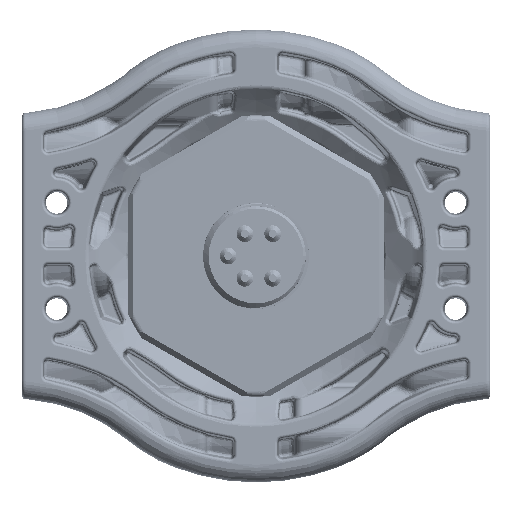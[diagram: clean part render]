
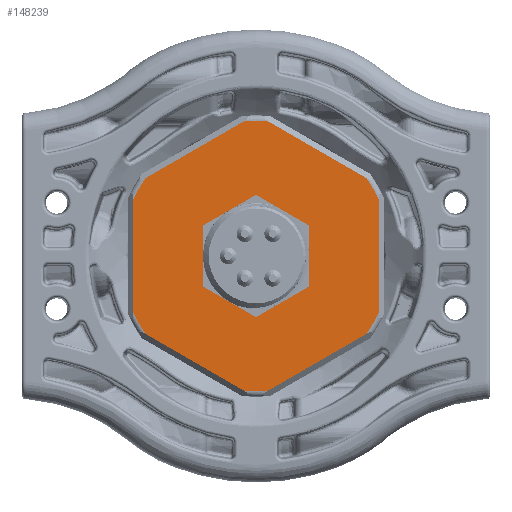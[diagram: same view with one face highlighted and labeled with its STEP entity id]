
A CAD part, left-side view. The second image highlights one B-rep face of the part: STEP entity #148239.
In plain terms, the highlighted planar face has unit normal (-1, 0, 0).
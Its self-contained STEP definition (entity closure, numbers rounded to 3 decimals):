
#1518 = VERTEX_POINT ( 'NONE', #77945 ) ;
#2818 = DIRECTION ( 'NONE',  ( 1., 0., 0. ) ) ;
#3998 = CARTESIAN_POINT ( 'NONE',  ( -28.5, 19.809, 13.989 ) ) ;
#4589 = VECTOR ( 'NONE', #41191, 1000. ) ;
#5277 = ORIENTED_EDGE ( 'NONE', *, *, #127420, .F. ) ;
#5743 = VERTEX_POINT ( 'NONE', #137483 ) ;
#7773 = DIRECTION ( 'NONE',  ( 0., -0.866, -0.5 ) ) ;
#9528 = CIRCLE ( 'NONE', #18572, 24.25 ) ;
#10457 = CARTESIAN_POINT ( 'NONE',  ( -28.5, 0., 0. ) ) ;
#14939 = CARTESIAN_POINT ( 'NONE',  ( -28.5, 19.809, -13.989 ) ) ;
#15574 = DIRECTION ( 'NONE',  ( 1., 0., 0. ) ) ;
#17338 = CARTESIAN_POINT ( 'NONE',  ( -28.5, 24.25, 0. ) ) ;
#17983 = DIRECTION ( 'NONE',  ( 0., 0., -1. ) ) ;
#18165 = CIRCLE ( 'NONE', #175282, 24.25 ) ;
#18572 = AXIS2_PLACEMENT_3D ( 'NONE', #62190, #120902, #134183 ) ;
#19331 = EDGE_CURVE ( 'NONE', #171170, #175261, #144243, .T. ) ;
#20846 = EDGE_CURVE ( 'NONE', #96723, #151943, #59756, .T. ) ;
#22269 = ORIENTED_EDGE ( 'NONE', *, *, #71309, .F. ) ;
#22919 = LINE ( 'NONE', #37076, #175452 ) ;
#24061 = CIRCLE ( 'NONE', #141951, 24.25 ) ;
#24545 = ORIENTED_EDGE ( 'NONE', *, *, #125979, .F. ) ;
#24694 = ORIENTED_EDGE ( 'NONE', *, *, #19331, .F. ) ;
#26303 = DIRECTION ( 'NONE',  ( 0., 0., -1. ) ) ;
#26962 = CARTESIAN_POINT ( 'NONE',  ( -28.5, -19.809, 13.989 ) ) ;
#27557 = DIRECTION ( 'NONE',  ( 0., 0., -1. ) ) ;
#28723 = FACE_OUTER_BOUND ( 'NONE', #121895, .T. ) ;
#29585 = CARTESIAN_POINT ( 'NONE',  ( -28.5, -22.019, -10.161 ) ) ;
#29883 = VERTEX_POINT ( 'NONE', #182624 ) ;
#31294 = CARTESIAN_POINT ( 'NONE',  ( -28.5, 0., 0. ) ) ;
#36156 = CARTESIAN_POINT ( 'NONE',  ( -28.5, 29.197, -8.568 ) ) ;
#36586 = DIRECTION ( 'NONE',  ( 0., 0., 1. ) ) ;
#37076 = CARTESIAN_POINT ( 'NONE',  ( -28.5, 7.178, -29.569 ) ) ;
#37494 = EDGE_CURVE ( 'NONE', #96723, #145484, #50319, .T. ) ;
#37577 = ORIENTED_EDGE ( 'NONE', *, *, #43784, .F. ) ;
#41191 = DIRECTION ( 'NONE',  ( 0., 0.866, -0.5 ) ) ;
#42596 = CIRCLE ( 'NONE', #169473, 24.25 ) ;
#43718 = VECTOR ( 'NONE', #96026, 1000. ) ;
#43784 = EDGE_CURVE ( 'NONE', #136558, #1518, #18165, .T. ) ;
#45125 = CARTESIAN_POINT ( 'NONE',  ( -28.5, 0., 0. ) ) ;
#46742 = CARTESIAN_POINT ( 'NONE',  ( -28.5, 0., 0. ) ) ;
#47050 = EDGE_CURVE ( 'NONE', #141834, #175261, #136940, .T. ) ;
#50319 = LINE ( 'NONE', #36156, #120554 ) ;
#52309 = ORIENTED_EDGE ( 'NONE', *, *, #20846, .F. ) ;
#56463 = VERTEX_POINT ( 'NONE', #70944 ) ;
#57841 = EDGE_CURVE ( 'NONE', #136558, #92036, #127308, .T. ) ;
#59756 = CIRCLE ( 'NONE', #117215, 24.25 ) ;
#60973 = ORIENTED_EDGE ( 'NONE', *, *, #47050, .T. ) ;
#62190 = CARTESIAN_POINT ( 'NONE',  ( -28.5, 0., 0. ) ) ;
#62613 = AXIS2_PLACEMENT_3D ( 'NONE', #147592, #2818, #17983 ) ;
#64535 = CARTESIAN_POINT ( 'NONE',  ( -28.5, 2.21, 24.149 ) ) ;
#65392 = DIRECTION ( 'NONE',  ( 0., -0.866, 0.5 ) ) ;
#67847 = DIRECTION ( 'NONE',  ( 1., 0., 0. ) ) ;
#70944 = CARTESIAN_POINT ( 'NONE',  ( -28.5, 0., -24.25 ) ) ;
#71309 = EDGE_CURVE ( 'NONE', #141834, #5743, #9528, .T. ) ;
#73250 = CARTESIAN_POINT ( 'NONE',  ( -28.5, -22.019, 10.161 ) ) ;
#75183 = EDGE_CURVE ( 'NONE', #171170, #1518, #129533, .T. ) ;
#77945 = CARTESIAN_POINT ( 'NONE',  ( -28.5, -2.21, 24.149 ) ) ;
#80469 = DIRECTION ( 'NONE',  ( 1., 0., 0. ) ) ;
#81397 = DIRECTION ( 'NONE',  ( 0., 0., -1. ) ) ;
#82098 = CARTESIAN_POINT ( 'NONE',  ( -28.5, 0., 0. ) ) ;
#82143 = CARTESIAN_POINT ( 'NONE',  ( -28.5, 22.019, 10.161 ) ) ;
#86466 = ORIENTED_EDGE ( 'NONE', *, *, #130393, .T. ) ;
#86738 = DIRECTION ( 'NONE',  ( 1., 0., 0. ) ) ;
#87822 = CARTESIAN_POINT ( 'NONE',  ( -28.5, 7.178, 29.569 ) ) ;
#90779 = AXIS2_PLACEMENT_3D ( 'NONE', #31294, #157188, #27557 ) ;
#92036 = VERTEX_POINT ( 'NONE', #3998 ) ;
#96026 = DIRECTION ( 'NONE',  ( 0., 0., -1. ) ) ;
#96723 = VERTEX_POINT ( 'NONE', #14939 ) ;
#97885 = LINE ( 'NONE', #183211, #43718 ) ;
#102820 = DIRECTION ( 'NONE',  ( 0., 0., -1. ) ) ;
#103478 = DIRECTION ( 'NONE',  ( 0., 0., -1. ) ) ;
#105189 = EDGE_CURVE ( 'NONE', #168978, #151943, #97885, .T. ) ;
#113084 = CARTESIAN_POINT ( 'NONE',  ( -28.5, 29.197, 8.568 ) ) ;
#117215 = AXIS2_PLACEMENT_3D ( 'NONE', #46742, #15574, #103478 ) ;
#118790 = ORIENTED_EDGE ( 'NONE', *, *, #105189, .T. ) ;
#120554 = VECTOR ( 'NONE', #7773, 1000. ) ;
#120902 = DIRECTION ( 'NONE',  ( 1., 0., 0. ) ) ;
#121895 = EDGE_LOOP ( 'NONE', ( #24694, #146249, #37577, #179175, #24545, #118790, #52309, #184608, #5277, #134515, #86466, #22269, #60973 ) ) ;
#125979 = EDGE_CURVE ( 'NONE', #168978, #92036, #166365, .T. ) ;
#127308 = LINE ( 'NONE', #113084, #4589 ) ;
#127420 = EDGE_CURVE ( 'NONE', #56463, #145484, #42596, .T. ) ;
#128894 = AXIS2_PLACEMENT_3D ( 'NONE', #17338, #160225, #171630 ) ;
#129533 = LINE ( 'NONE', #87822, #179215 ) ;
#129947 = PLANE ( 'NONE',  #128894 ) ;
#130393 = EDGE_CURVE ( 'NONE', #29883, #5743, #22919, .T. ) ;
#131403 = DIRECTION ( 'NONE',  ( 0., 0.866, 0.5 ) ) ;
#134183 = DIRECTION ( 'NONE',  ( 0., 0., -1. ) ) ;
#134515 = ORIENTED_EDGE ( 'NONE', *, *, #174360, .F. ) ;
#136558 = VERTEX_POINT ( 'NONE', #64535 ) ;
#136940 = LINE ( 'NONE', #166256, #184897 ) ;
#137483 = CARTESIAN_POINT ( 'NONE',  ( -28.5, -19.809, -13.989 ) ) ;
#141834 = VERTEX_POINT ( 'NONE', #29585 ) ;
#141951 = AXIS2_PLACEMENT_3D ( 'NONE', #82098, #67847, #26303 ) ;
#144243 = CIRCLE ( 'NONE', #62613, 24.25 ) ;
#145484 = VERTEX_POINT ( 'NONE', #179298 ) ;
#146249 = ORIENTED_EDGE ( 'NONE', *, *, #75183, .T. ) ;
#147508 = CARTESIAN_POINT ( 'NONE',  ( -28.5, 22.019, -10.161 ) ) ;
#147592 = CARTESIAN_POINT ( 'NONE',  ( -28.5, 0., 0. ) ) ;
#148239 = ADVANCED_FACE ( 'NONE', ( #28723 ), #129947, .T. ) ;
#151943 = VERTEX_POINT ( 'NONE', #147508 ) ;
#157188 = DIRECTION ( 'NONE',  ( 1., 0., 0. ) ) ;
#160225 = DIRECTION ( 'NONE',  ( -1., 0., 0. ) ) ;
#166256 = CARTESIAN_POINT ( 'NONE',  ( -28.5, -22.019, 0. ) ) ;
#166365 = CIRCLE ( 'NONE', #90779, 24.25 ) ;
#168978 = VERTEX_POINT ( 'NONE', #82143 ) ;
#169473 = AXIS2_PLACEMENT_3D ( 'NONE', #10457, #80469, #81397 ) ;
#171170 = VERTEX_POINT ( 'NONE', #26962 ) ;
#171630 = DIRECTION ( 'NONE',  ( 0., 0., 1. ) ) ;
#174360 = EDGE_CURVE ( 'NONE', #29883, #56463, #24061, .T. ) ;
#175261 = VERTEX_POINT ( 'NONE', #73250 ) ;
#175282 = AXIS2_PLACEMENT_3D ( 'NONE', #45125, #86738, #102820 ) ;
#175452 = VECTOR ( 'NONE', #65392, 1000. ) ;
#179175 = ORIENTED_EDGE ( 'NONE', *, *, #57841, .T. ) ;
#179215 = VECTOR ( 'NONE', #131403, 1000. ) ;
#179298 = CARTESIAN_POINT ( 'NONE',  ( -28.5, 2.21, -24.149 ) ) ;
#182624 = CARTESIAN_POINT ( 'NONE',  ( -28.5, -2.21, -24.149 ) ) ;
#183211 = CARTESIAN_POINT ( 'NONE',  ( -28.5, 22.019, 0. ) ) ;
#184608 = ORIENTED_EDGE ( 'NONE', *, *, #37494, .T. ) ;
#184897 = VECTOR ( 'NONE', #36586, 1000. ) ;
